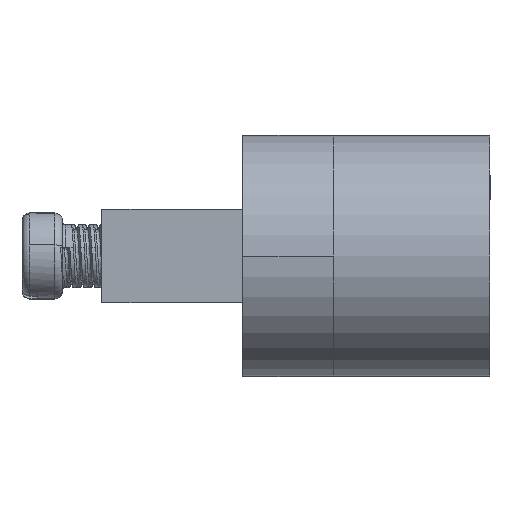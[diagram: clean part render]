
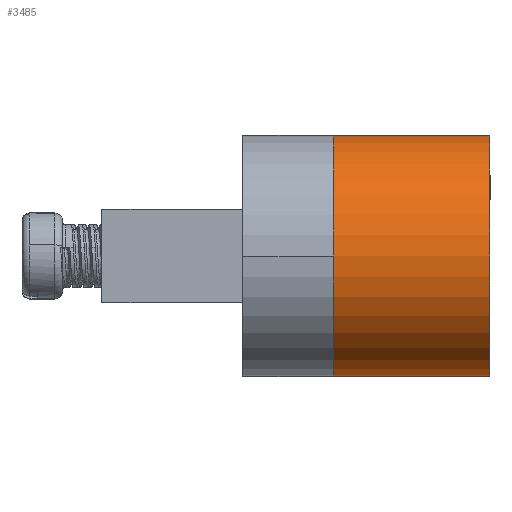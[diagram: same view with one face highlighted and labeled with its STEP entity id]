
A CAD part, left-side view. The second image highlights one B-rep face of the part: STEP entity #3485.
In plain terms, the highlighted cylindrical face has radius 7.7 mm (diameter 15.4 mm), a partial arc.
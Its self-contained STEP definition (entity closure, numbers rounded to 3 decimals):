
#16 = VERTEX_POINT ( 'NONE', #8771 ) ;
#400 = VERTEX_POINT ( 'NONE', #8767 ) ;
#866 = CARTESIAN_POINT ( 'NONE',  ( 14., 0., 10. ) ) ;
#1271 = VECTOR ( 'NONE', #1759, 1000. ) ;
#1557 = ORIENTED_EDGE ( 'NONE', *, *, #2485, .T. ) ;
#1759 = DIRECTION ( 'NONE',  ( 0., 0., -1. ) ) ;
#1778 = ORIENTED_EDGE ( 'NONE', *, *, #9325, .F. ) ;
#1987 = EDGE_CURVE ( 'NONE', #16, #400, #7263, .T. ) ;
#2449 = EDGE_LOOP ( 'NONE', ( #5412, #5033, #1778, #1557 ) ) ;
#2485 = EDGE_CURVE ( 'NONE', #5020, #5004, #5614, .T. ) ;
#3458 = DIRECTION ( 'NONE',  ( 0., 0., 1. ) ) ;
#3475 = CYLINDRICAL_SURFACE ( 'NONE', #6195, 7.7 ) ;
#3485 = ADVANCED_FACE ( 'NONE', ( #10406 ), #3475, .T. ) ;
#3489 = CARTESIAN_POINT ( 'NONE',  ( 14., -7.7, 10. ) ) ;
#3588 = AXIS2_PLACEMENT_3D ( 'NONE', #4763, #10839, #5655 ) ;
#4289 = DIRECTION ( 'NONE',  ( 0., 0., -1. ) ) ;
#4392 = CIRCLE ( 'NONE', #10288, 7.7 ) ;
#4763 = CARTESIAN_POINT ( 'NONE',  ( 14., 0., 10. ) ) ;
#4953 = VECTOR ( 'NONE', #8811, 1000. ) ;
#5004 = VERTEX_POINT ( 'NONE', #7986 ) ;
#5020 = VERTEX_POINT ( 'NONE', #10595 ) ;
#5033 = ORIENTED_EDGE ( 'NONE', *, *, #1987, .F. ) ;
#5412 = ORIENTED_EDGE ( 'NONE', *, *, #5930, .T. ) ;
#5614 = LINE ( 'NONE', #3489, #1271 ) ;
#5655 = DIRECTION ( 'NONE',  ( 1., 0., 0. ) ) ;
#5930 = EDGE_CURVE ( 'NONE', #5004, #400, #4392, .T. ) ;
#6195 = AXIS2_PLACEMENT_3D ( 'NONE', #866, #4289, #6605 ) ;
#6605 = DIRECTION ( 'NONE',  ( -1., 0., 0. ) ) ;
#7263 = LINE ( 'NONE', #9647, #4953 ) ;
#7878 = CIRCLE ( 'NONE', #3588, 7.7 ) ;
#7986 = CARTESIAN_POINT ( 'NONE',  ( 14., -7.7, 0. ) ) ;
#8649 = CARTESIAN_POINT ( 'NONE',  ( 14., 0., 0. ) ) ;
#8767 = CARTESIAN_POINT ( 'NONE',  ( 14., 7.7, 0. ) ) ;
#8771 = CARTESIAN_POINT ( 'NONE',  ( 14., 7.7, 10. ) ) ;
#8811 = DIRECTION ( 'NONE',  ( 0., 0., -1. ) ) ;
#9325 = EDGE_CURVE ( 'NONE', #5020, #16, #7878, .T. ) ;
#9521 = DIRECTION ( 'NONE',  ( 1., 0., 0. ) ) ;
#9647 = CARTESIAN_POINT ( 'NONE',  ( 14., 7.7, 10. ) ) ;
#10288 = AXIS2_PLACEMENT_3D ( 'NONE', #8649, #3458, #9521 ) ;
#10406 = FACE_OUTER_BOUND ( 'NONE', #2449, .T. ) ;
#10595 = CARTESIAN_POINT ( 'NONE',  ( 14., -7.7, 10. ) ) ;
#10839 = DIRECTION ( 'NONE',  ( 0., 0., 1. ) ) ;
